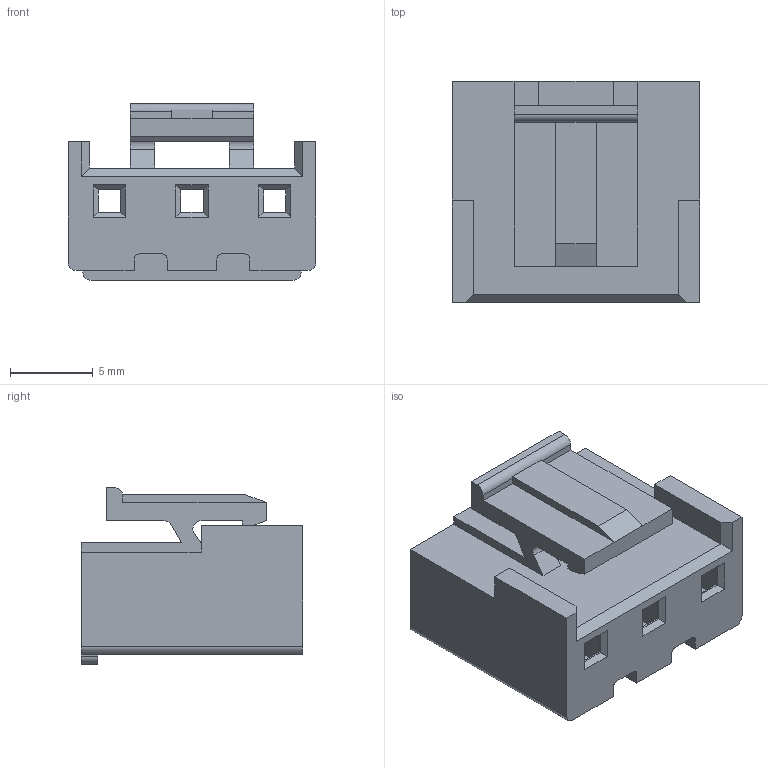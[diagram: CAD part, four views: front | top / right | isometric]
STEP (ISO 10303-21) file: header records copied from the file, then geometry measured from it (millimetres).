
FILE_DESCRIPTION(/* description */ (''),/* implementation_level */ '2;1');
FILE_NAME(/* name */ 'E:\工作文件\现出货3D文件\05德利\DL50003(5003)\HC-5003-NY-05(孔座-HCTL)\HC-5003-3Y-05(孔座-HCTL).stp',/* time_stamp */ '2023-11-25T14:34:16+08:00',/* author */ ('admin'),/* organization */ (''),/* preprocessor_version */ 'ST-DEVELOPER v18.1',/* originating_system */ 'Autodesk Inventor 2021',/* authorisation */ '');
FILE_SCHEMA (('AUTOMOTIVE_DESIGN { 1 0 10303 214 3 1 1 }'));
Length unit declared in the file: millimetre
Products named in the file (1): HC-5003-1Y-05(孔座-HCTL)
Bounding box: 15 x 13.4 x 10.7 mm (x, y, z)
Volume: 857.3 mm3; surface area: 1643.2 mm2
Topology: 1 solids, 1 shells, 116 faces, 323 edges, 210 vertices
Faces by surface type: plane 103, cylinder 13
Entity records: 3704 total; most frequent: CARTESIAN_POINT 650, ORIENTED_EDGE 646, DIRECTION 585, EDGE_CURVE 323, LINE 295, VECTOR 295, VERTEX_POINT 210, AXIS2_PLACEMENT_3D 145
